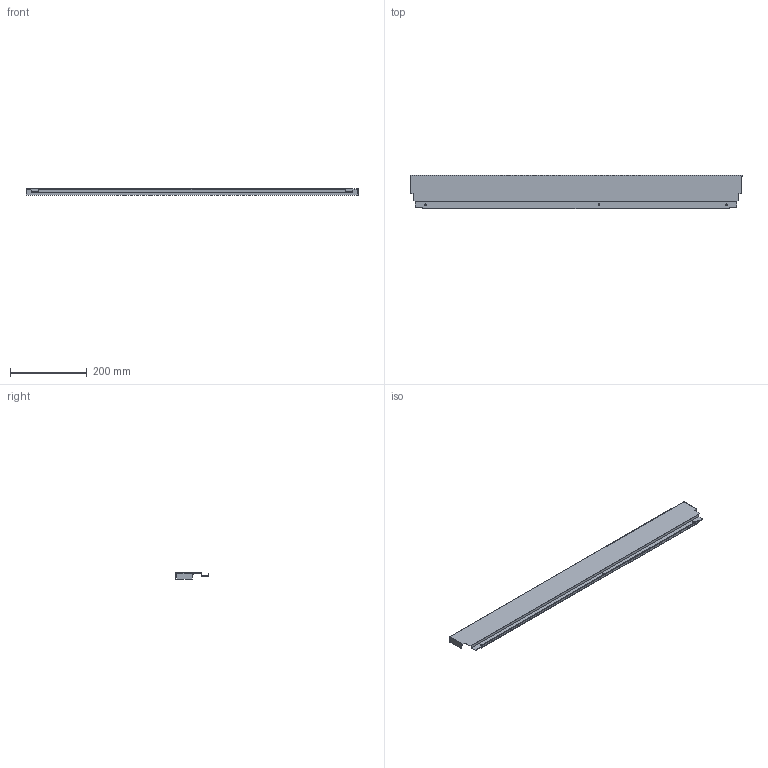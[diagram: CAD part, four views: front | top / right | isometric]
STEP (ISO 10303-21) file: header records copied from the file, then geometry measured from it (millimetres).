
FILE_DESCRIPTION (( 'STEP AP214' ), '1' );
FILE_NAME ('_DWD_XP Stahlrückwand_H86_KAB950_S19.step', '2010-07-08T12:10:40', ( 'grass' ), ( '' ), 'SwSTEP 2.0', 'SolidWorks 2010', '' );
FILE_SCHEMA (( 'AUTOMOTIVE_DESIGN' ));
Length unit declared in the file: millimetre
Products named in the file (1): _DWD_XP Stahlrückwand_H86_KAB950_S19
Bounding box: 863 x 85.79 x 16 mm (x, y, z)
Volume: 92542.4 mm3; surface area: 200814.4 mm2
Topology: 1 solids, 1 shells, 50 faces, 144 edges, 96 vertices
Faces by surface type: plane 44, cylinder 6
Entity records: 1666 total; most frequent: CARTESIAN_POINT 291, ORIENTED_EDGE 288, DIRECTION 258, EDGE_CURVE 144, VECTOR 132, LINE 132, VERTEX_POINT 96, AXIS2_PLACEMENT_3D 63
